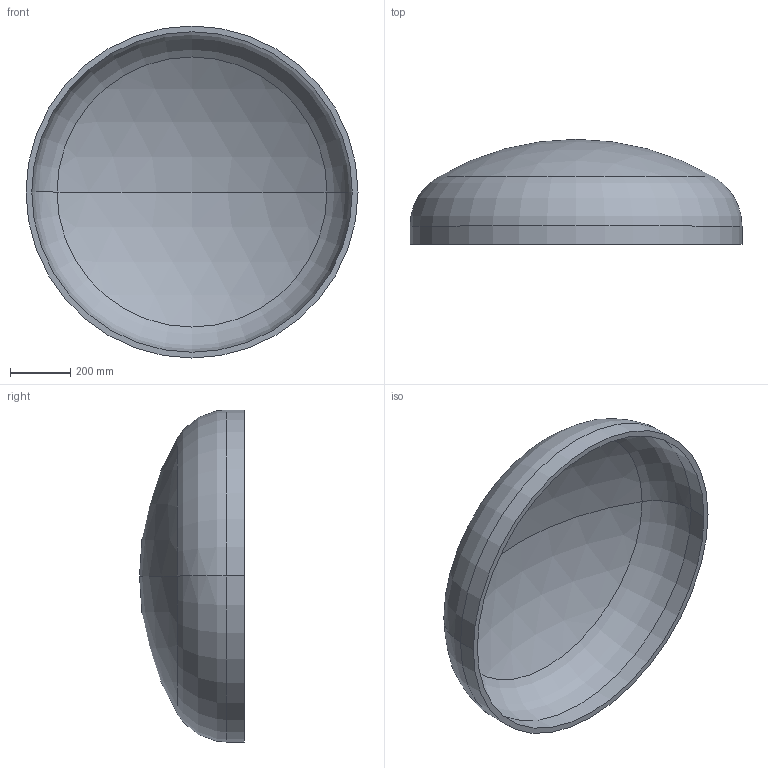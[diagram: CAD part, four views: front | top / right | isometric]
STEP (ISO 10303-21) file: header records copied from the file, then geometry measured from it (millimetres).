
FILE_DESCRIPTION (( 'STEP AP203' ), '1' );
FILE_NAME ('DIN 28013 Korbbogenform_-_Boden DIN 28013 - 1100 x 60 - I - s=19.step', '2016-07-01T09:02:50', ( '' ), ( '' ), 'SwSTEP 2.0', 'SolidWorks 2013', '' );
FILE_SCHEMA (( 'CONFIG_CONTROL_DESIGN' ));
Length unit declared in the file: millimetre
Products named in the file (1): DIN 28013 Korbbogenform_-_Boden DIN 28013 - 1100 x 60 - I - s=19
Bounding box: 1100 x 347.63 x 1100 mm (x, y, z)
Volume: 28333111.3 mm3; surface area: 3047713 mm2
Topology: 1 solids, 1 shells, 13 faces, 24 edges, 14 vertices
Faces by surface type: torus 4, cylinder 4, sphere 4, plane 1
Entity records: 407 total; most frequent: DIRECTION 72, CARTESIAN_POINT 52, ORIENTED_EDGE 48, AXIS2_PLACEMENT_3D 34, EDGE_CURVE 24, CIRCLE 20, EDGE_LOOP 14, VERTEX_POINT 14
